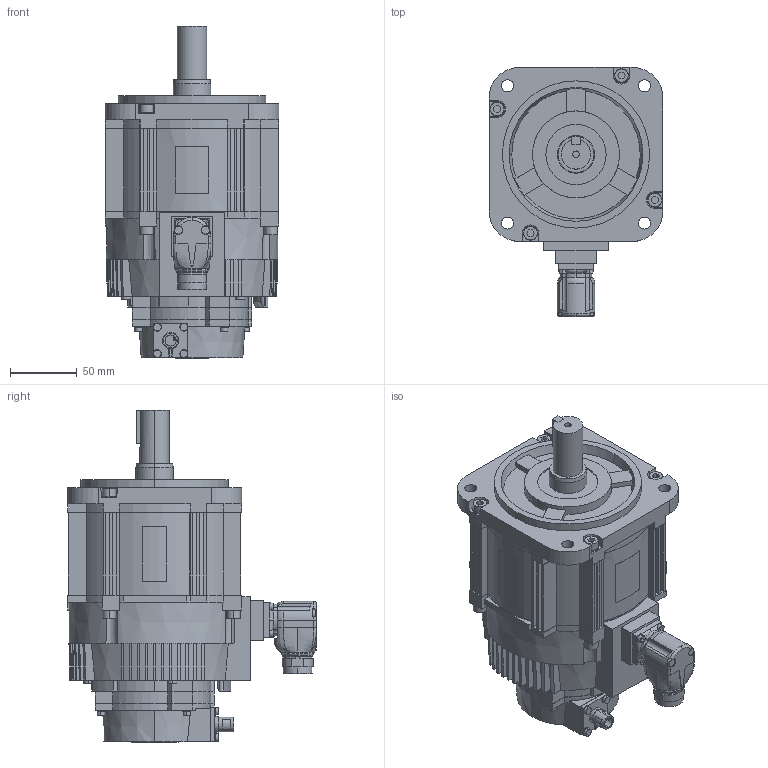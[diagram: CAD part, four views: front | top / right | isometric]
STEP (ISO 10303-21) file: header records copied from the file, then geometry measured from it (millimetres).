
FILE_DESCRIPTION (( 'STEP AP214' ), '1' );
FILE_NAME ('sgm7g_13d_fkh.STEP', '2016-02-02T09:57:08', ( '匠エンジニアリング山之内' ), ( 'TAKUMI-Engniaring' ), 'SwSTEP 2.0', 'SolidWorks 2006303', '' );
FILE_SCHEMA (( 'AUTOMOTIVE_DESIGN' ));
Length unit declared in the file: millimetre
Products named in the file (4): sgm7g_13d_fkh_base_蹬怮椔; sgm7g_13d_fkh_connector; sgm7g_13d_fkh_key_蹬怮椔; sgm7g_13d_fkh
Assembly tree (3 placements, depth 2):
  sgm7g_13d_fkh
    sgm7g_13d_fkh_key_蹬怮椔
    sgm7g_13d_fkh_connector
    sgm7g_13d_fkh_base_蹬怮椔
Bounding box: 130 x 185.9 x 248.1 mm (x, y, z)
Volume: 2304176.7 mm3; surface area: 170509.9 mm2
Topology: 3 solids, 3 shells, 1073 faces, 2774 edges, 1793 vertices
Faces by surface type: plane 684, cylinder 260, cone 100, bspline 20, torus 9
Entity records: 46348 total; most frequent: CARTESIAN_POINT 8014, ORIENTED_EDGE 5544, DIRECTION 5497, EDGE_CURVE 2772, AXIS2_PLACEMENT_3D 1913, VERTEX_POINT 1793, VECTOR 1671, LINE 1671
